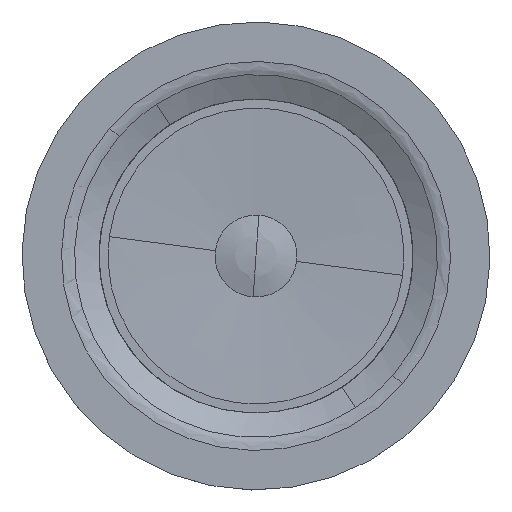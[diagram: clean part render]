
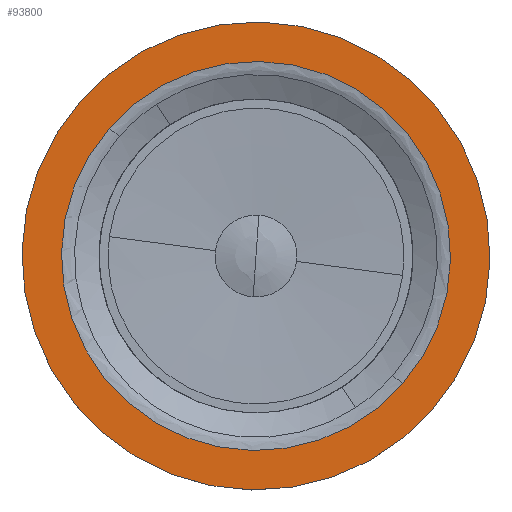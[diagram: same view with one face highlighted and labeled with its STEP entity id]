
A CAD part, top view. The second image highlights one B-rep face of the part: STEP entity #93800.
In plain terms, the highlighted planar face has unit normal (0, 0, 1).
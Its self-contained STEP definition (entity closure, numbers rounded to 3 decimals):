
#93250=CARTESIAN_POINT('',(-18.767,16.364,
5.678));
#93260=VERTEX_POINT('',#93250);
#93340=CARTESIAN_POINT('',(18.767,-16.364,
5.678));
#93350=VERTEX_POINT('',#93340);
#93380=CARTESIAN_POINT('',(0.,0.,
5.678));
#93390=DIRECTION('',(0.,0.,1.));
#93400=DIRECTION('',(-0.754,0.657,
0.));
#93410=AXIS2_PLACEMENT_3D('',#93380,#93390,#93400);
#93420=CIRCLE('',#93410,24.9);
#93430=EDGE_CURVE('',#93350,#93260,#93420,.T.);
#93550=CARTESIAN_POINT('',(0.,0.,
5.678));
#93560=DIRECTION('',(0.,0.,1.));
#93570=DIRECTION('',(0.836,0.549,
0.));
#93580=AXIS2_PLACEMENT_3D('',#93550,#93560,#93570);
#93590=PLANE('',#93580);
#93600=EDGE_CURVE('',#93260,#93350,#93420,.T.);
#93610=ORIENTED_EDGE('',*,*,#93600,.T.);
#93620=ORIENTED_EDGE('',*,*,#93430,.T.);
#93630=EDGE_LOOP('',(#93620,#93610));
#93640=FACE_OUTER_BOUND('',#93630,.T.);
#93650=CARTESIAN_POINT('',(0.,0.,
5.678));
#93660=DIRECTION('',(0.,0.,-1.));
#93670=DIRECTION('',(0.838,0.546,
0.));
#93680=AXIS2_PLACEMENT_3D('',#93650,#93660,#93670);
#93690=CIRCLE('',#93680,20.7);
#93700=CARTESIAN_POINT('',(-15.601,13.604,
5.678));
#93710=VERTEX_POINT('',#93700);
#93720=CARTESIAN_POINT('',(15.601,-13.604,
5.678));
#93730=VERTEX_POINT('',#93720);
#93740=EDGE_CURVE('',#93710,#93730,#93690,.T.);
#93750=ORIENTED_EDGE('',*,*,#93740,.T.);
#93760=EDGE_CURVE('',#93730,#93710,#93690,.T.);
#93770=ORIENTED_EDGE('',*,*,#93760,.T.);
#93780=EDGE_LOOP('',(#93770,#93750));
#93790=FACE_BOUND('',#93780,.T.);
#93800=ADVANCED_FACE('',(#93640,#93790),#93590,.T.);
